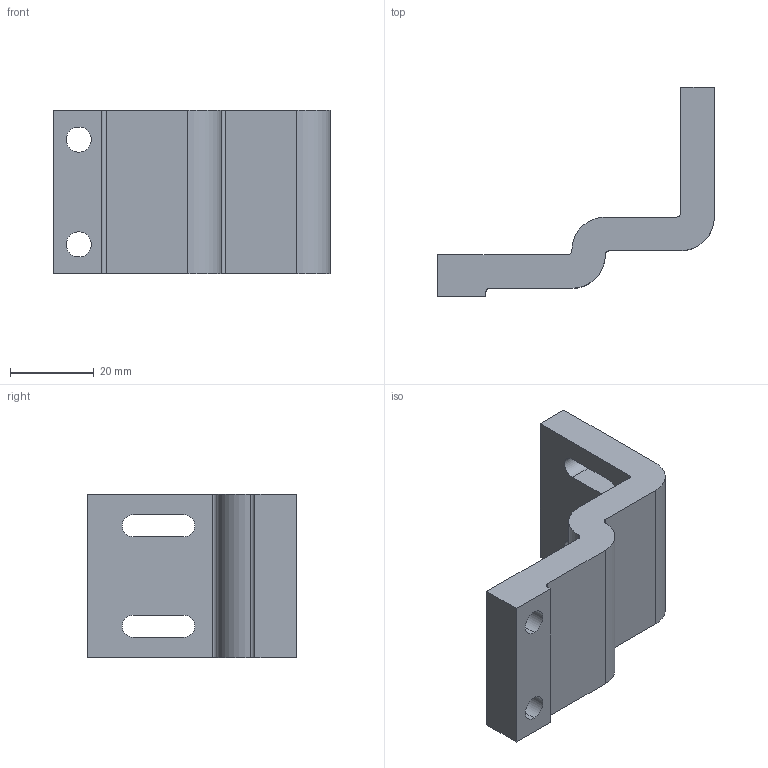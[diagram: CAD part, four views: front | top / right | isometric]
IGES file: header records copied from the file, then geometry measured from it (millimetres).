
Start section:  PTC IGES file: 2011395
Global section: file name: 2011395; native system: Creo Parametric by Parametric Technology Corporation; preprocessor: 2015110; author: rink; organization: Unknown; date: 20181219.103845; units: millimetre
Bounding box: 66 x 50 x 39 mm (x, y, z)
Surface area: 10812.3 mm2 (no closed solid volume)
Topology: 0 solids, 0 shells, 31 faces, 174 edges, 174 vertices
Faces by surface type: bspline 16, revolution 15
